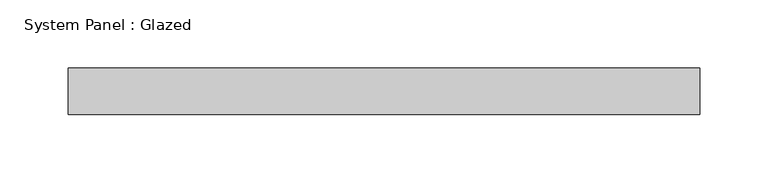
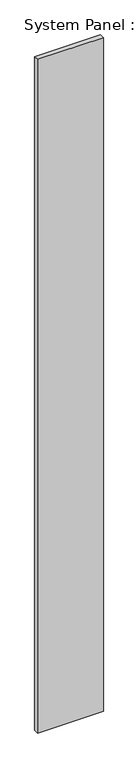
"""IFC4 building model written with IfcOpenShell, lengths in millimetres: plate geometry, System Panel : Glazed."""

from ifc_helpers import new_model, si_unit, origin, origin_with_axes, place, context, project, spatial, polyline, outline, extrude, source, transform, mapped, element, save


def system_panel_glazed_65b8b972(model_context):
    return source(origin(), model_context, "Body", "SweptSolid", [
        extrude(outline(polyline([(231.0, -17.0), (-231.0, -17.0), (-231.0, 17.0), (231.0, 17.0), (231.0, -17.0)])), origin_with_axes(), (0.0, 0.0, 1.0), 5000.0),
    ])


if __name__ == "__main__":
    model = new_model("IFC4")
    model_context = context("Model", 3, world=origin())
    ifc_project = project(units=[si_unit("LENGTHUNIT", "METRE", prefix="MILLI")], contexts=[model_context])
    site = spatial("IfcSite", under=ifc_project)
    building = spatial("IfcBuilding", under=site)
    placement = place(None, origin())
    system_panel_glazed_shape = system_panel_glazed_65b8b972(model_context)
    element("IfcPlate", 1, ObjectType="System Panel : Glazed", at=placement, inside=building, context=model_context, shape_type="MappedRepresentation", body=[
        mapped(system_panel_glazed_shape, transform((0.0, 0.0, 0.0), x_axis=(1.0, 0.0, 0.0), y_axis=(0.0, 1.0, 0.0), z_axis=(0.0, 0.0, 1.0))),
    ])
    save(model, "model.ifc")
